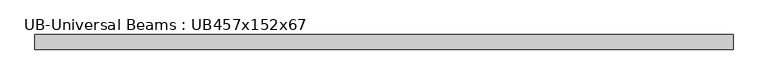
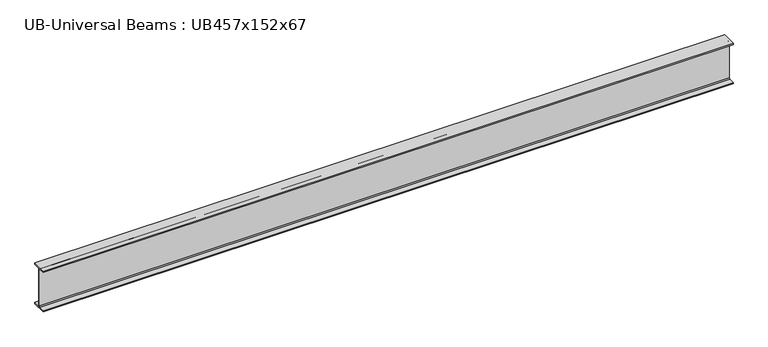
"""IFC4 building model written with IfcOpenShell, lengths in millimetres: beam geometry, UB-Universal Beams : UB457x152x67."""

from ifc_helpers import new_model, si_unit, point, frame, frame_2d, origin, place, context, project, spatial, polyline, circle_curve, trimmed, segment, composite_curve, outline, extrude, source, transform, mapped, element, save


def ub_universal_beams_ub457x152x67_43212cfb(model_context):
    return source(origin(), model_context, "Body", "SweptSolid", [
        extrude(outline(composite_curve([segment(polyline([(76.9, -214.0), (76.9, -229.0), (-76.9, -229.0), (-76.9, -214.0), (-14.7, -214.0)]), True, "CONTINUOUS"), segment(trimmed(circle_curve(frame_2d((-14.7, -203.8)), 10.2), [point((-14.7, -214.0))], [point((-4.5, -203.8))], True, "CARTESIAN"), True, "CONTINUOUS"), segment(polyline([(-4.5, -203.8), (-4.5, 203.8)]), True, "CONTINUOUS"), segment(trimmed(circle_curve(frame_2d((-14.7, 203.8)), 10.2), [point((-4.5, 203.8))], [point((-14.7, 214.0))], True, "CARTESIAN"), True, "CONTINUOUS"), segment(polyline([(-14.7, 214.0), (-76.9, 214.0), (-76.9, 229.0), (76.9, 229.0), (76.9, 214.0), (14.7, 214.0)]), True, "CONTINUOUS"), segment(trimmed(circle_curve(frame_2d((14.7, 203.8)), 10.2), [point((14.7, 214.0))], [point((4.5, 203.8))], True, "CARTESIAN"), True, "CONTINUOUS"), segment(polyline([(4.5, 203.8), (4.5, -203.8)]), True, "CONTINUOUS"), segment(trimmed(circle_curve(frame_2d((14.7, -203.8)), 10.2), [point((4.5, -203.8))], [point((14.7, -214.0))], True, "CARTESIAN"), True, "CONTINUOUS"), segment(polyline([(14.7, -214.0), (76.9, -214.0)]), True, "CONTINUOUS")], self_intersect=False)), frame((-3737.2, 0.0, 0.0), z_axis=(1.0, 0.0, 0.0), x_axis=(0.0, 1.0, 0.0)), (0.0, 0.0, 1.0), 7336.3),
    ])


if __name__ == "__main__":
    model = new_model("IFC4")
    model_context = context("Model", 3, world=origin())
    ifc_project = project(units=[si_unit("LENGTHUNIT", "METRE", prefix="MILLI")], contexts=[model_context])
    site = spatial("IfcSite", under=ifc_project)
    building = spatial("IfcBuilding", under=site)
    placement = place(None, origin())
    ub_universal_beams_ub457x152x67_shape = ub_universal_beams_ub457x152x67_43212cfb(model_context)
    element("IfcBeam", 1, ObjectType="UB-Universal Beams : UB457x152x67", at=placement, inside=building, context=model_context, shape_type="MappedRepresentation", body=[
        mapped(ub_universal_beams_ub457x152x67_shape, transform((0.0, 0.0, 0.0), x_axis=(1.0, 0.0, 0.0), y_axis=(0.0, 1.0, 0.0), z_axis=(0.0, 0.0, 1.0))),
    ])
    save(model, "model.ifc")
